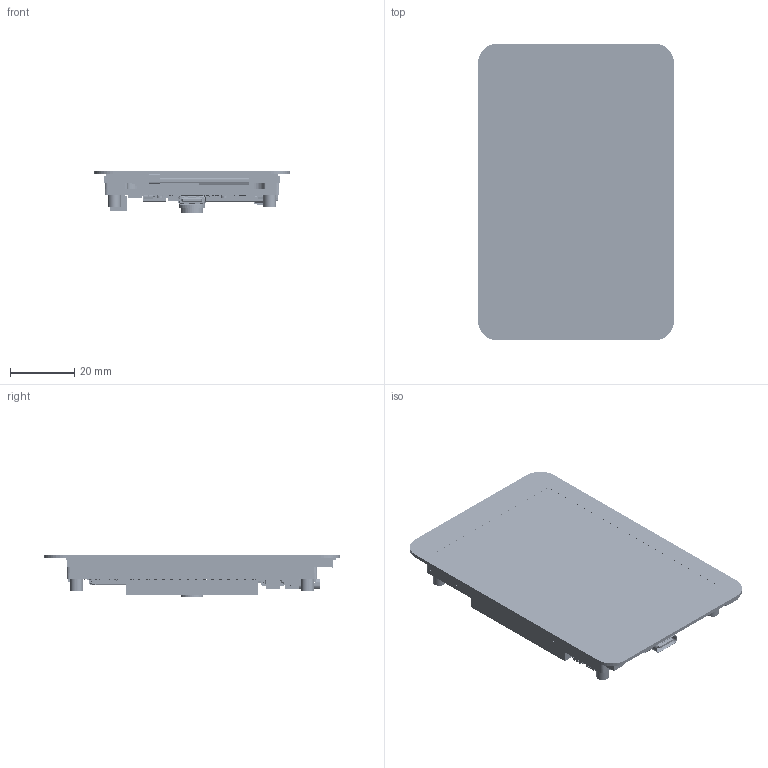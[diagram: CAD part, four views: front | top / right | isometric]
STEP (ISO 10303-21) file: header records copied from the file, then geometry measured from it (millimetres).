
FILE_DESCRIPTION((''),'2;1');
FILE_NAME('ESP32-S3-TOUCH-LCD-3_5_ASM','2025-03-19T17:03:36',('xiaojisheng'),(''),'CREO PARAMETRIC BY PTC INC, 2021063','CREO PARAMETRIC BY PTC INC, 2021063','');
FILE_SCHEMA(('CONFIG_CONTROL_DESIGN','SHAPE_APPEARANCE_LAYERS_GROUPS'));
Products named in the file (224): 3_5INCH-320X480-TOUCH; HXR35014C30; 3_5INCH-320X480-TP_LCD_ASM; BOARD; _1_10001; 3_1_A; 2_100; C_0402-672_AF0_ASM_ASM; C_0402-4045_AF0_ASM_ASM; C_0402_ASM; C72_ASM; 2_1_200; _1_1_20001; 3_1_2_A; C_0603-683_AF0_ASM_ASM; C_0603-7177_AF0_ASM_ASM; C_0603_ASM; C71_ASM; C70_ASM; C68_ASM; C67_ASM; USER_LIBRARY-0201_0603M__CAP_1; USER_LIBRARY-0201_0603M__CAP_2; USER_LIBRARY-0201_0603M__CAP_3; USER_LIBRARY-0201_0603M__CAP_ASM; C66_ASM; USER_LIBRARY-RES_0603-0201_1; USER_LIBRARY-RES_0603-0201_2; USER_LIBRARY-RES_0603-0201_3; USER_LIBRARY-RES_0603-0201_4; USER_LIBRARY-RES_0603-0201_ASM; R56_ASM; R51_ASM; C60_ASM; C54_ASM; C51_ASM; C50_ASM; C1_ASM; C2_ASM; C3_ASM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
Assembly tree (391 placements, depth 9):
  ESP32-S3-TOUCH-LCD-3_5_ASM
    3_5INCH-320X480-TP_LCD_ASM
      3_5INCH-320X480-TOUCH
      HXR35014C30
    ESP32-S3-TOUCH-LCD-3_5-PCBA-A_B_ASM
      ESP32-S3-TOUCH-LCD-3_5-PCBA_ASM
        PCB_ASM
          BOARD
          C72_ASM
            C_0402_ASM
              C_0402-4045_AF0_ASM_ASM
                C_0402-672_AF0_ASM_ASM
                  _1_10001
                  3_1_A
                  2_100
          C71_ASM
            C_0603_ASM
              C_0603-7177_AF0_ASM_ASM
                C_0603-683_AF0_ASM_ASM
                  2_1_200
                  _1_1_20001
                  3_1_2_A
          C70_ASM
            C_0603_ASM
              C_0603-7177_AF0_ASM_ASM
                C_0603-683_AF0_ASM_ASM
                  2_1_200
                  _1_1_20001
                  3_1_2_A
          C68_ASM
            C_0603_ASM
              C_0603-7177_AF0_ASM_ASM
                C_0603-683_AF0_ASM_ASM
                  2_1_200
                  _1_1_20001
                  3_1_2_A
          C67_ASM
            C_0603_ASM
              C_0603-7177_AF0_ASM_ASM
                C_0603-683_AF0_ASM_ASM
                  2_1_200
                  _1_1_20001
                  3_1_2_A
          C66_ASM
            USER_LIBRARY-0201_0603M__CAP_ASM
              USER_LIBRARY-0201_0603M__CAP_1
              USER_LIBRARY-0201_0603M__CAP_2
              USER_LIBRARY-0201_0603M__CAP_3
          R56_ASM
            USER_LIBRARY-RES_0603-0201_ASM
              USER_LIBRARY-RES_0603-0201_1
              USER_LIBRARY-RES_0603-0201_2
              USER_LIBRARY-RES_0603-0201_3
              USER_LIBRARY-RES_0603-0201_4
          R51_ASM
            USER_LIBRARY-RES_0603-0201_ASM
              USER_LIBRARY-RES_0603-0201_1
              USER_LIBRARY-RES_0603-0201_2
              USER_LIBRARY-RES_0603-0201_3
              USER_LIBRARY-RES_0603-0201_4
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Bounding box: 61 x 92.44 x 13.4 mm (x, y, z)
Volume: 33225.5 mm3; surface area: 47288.8 mm2
Topology: 523 solids, 568 shells, 29055 faces, 76982 edges, 49869 vertices
Faces by surface type: plane 18801, extrusion 6034, cylinder 3449, sphere 600, cone 87, bspline 72, torus 12
Entity records: 412998 total; most frequent: CARTESIAN_POINT 82201, ORIENTED_EDGE 54366, DIRECTION 49785, EDGE_CURVE 27200, VECTOR 22363, LINE 21741, PRESENTATION_STYLE_ASSIGNMENT 20289, STYLED_ITEM 19032
